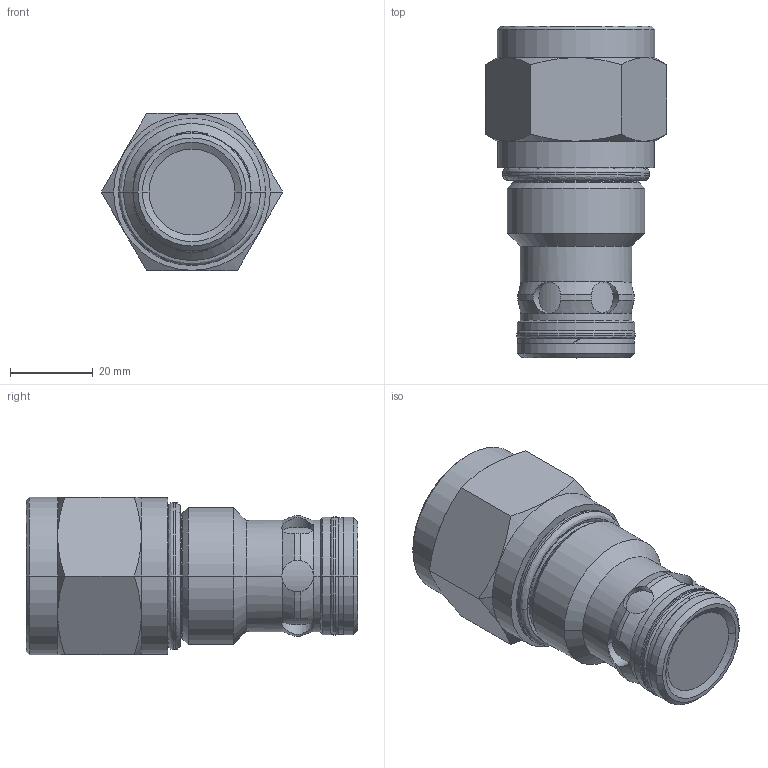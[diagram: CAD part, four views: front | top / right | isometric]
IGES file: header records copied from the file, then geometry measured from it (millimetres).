
Start section:  PTC IGES file: CVFP-16-_-_.igs
Global section: file name: CVFP-16-_-_.igs; native system: Creo Elements/Pro by Parametric Technology Corporation; preprocessor: 2015070; author: torrese; organization: Unknown; date: 20150903.093409; units: inch
Bounding box: 43.99 x 80.39 x 38.1 mm (x, y, z)
Volume: 72797.1 mm3; surface area: 11929.5 mm2
Topology: 1 solids, 1 shells, 108 faces, 258 edges, 158 vertices
Faces by surface type: revolution 91, bspline 17
